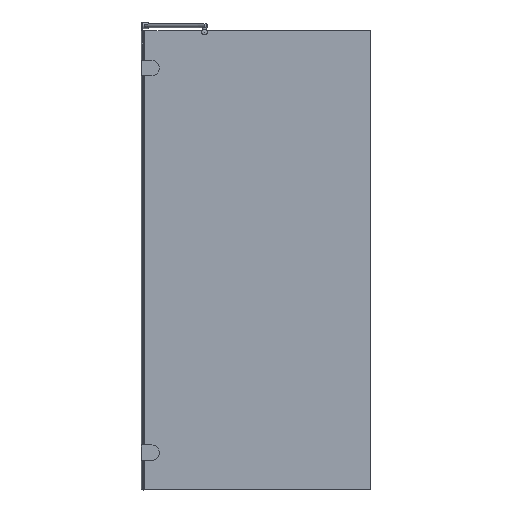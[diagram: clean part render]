
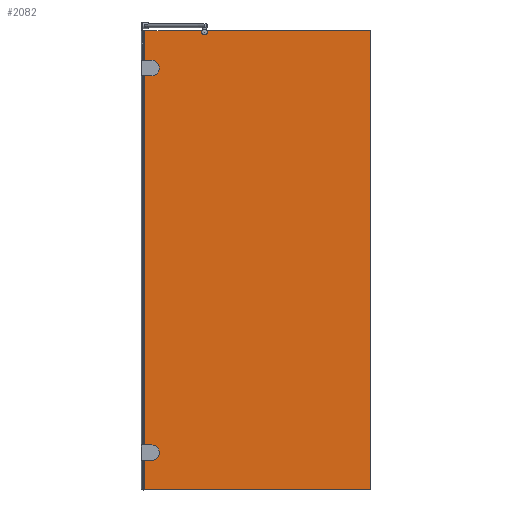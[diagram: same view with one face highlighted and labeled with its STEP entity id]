
A CAD part, front view. The second image highlights one B-rep face of the part: STEP entity #2082.
In plain terms, the highlighted planar face has unit normal (0, -1, 0).
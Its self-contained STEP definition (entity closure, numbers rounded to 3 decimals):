
#87=FACE_BOUND($,#356,.T.);
#88=FACE_BOUND($,#357,.T.);
#89=FACE_BOUND($,#358,.T.);
#356=EDGE_LOOP($,(#1706,#1707,#1708,#1709));
#357=EDGE_LOOP($,(#1710,#1711,#1712,#1713));
#358=EDGE_LOOP($,(#1714,#1715,#1716,#1717,#1718,#1719,#1720));
#407=LINE($,#2951,#566);
#412=LINE($,#2965,#571);
#415=LINE($,#2970,#574);
#457=LINE($,#3178,#616);
#462=LINE($,#3192,#621);
#465=LINE($,#3197,#624);
#491=LINE($,#3582,#650);
#493=LINE($,#3587,#652);
#523=LINE($,#3677,#682);
#526=LINE($,#3682,#685);
#527=LINE($,#3684,#686);
#566=VECTOR($,#2375,15.);
#571=VECTOR($,#2388,15.);
#574=VECTOR($,#2393,52.);
#616=VECTOR($,#2543,15.);
#621=VECTOR($,#2556,15.);
#624=VECTOR($,#2561,52.);
#650=VECTOR($,#2697,571.566);
#652=VECTOR($,#2701,1600.);
#682=VECTOR($,#2793,788.);
#685=VECTOR($,#2800,198.474);
#686=VECTOR($,#2801,1599.9);
#708=CIRCLE($,#2126,26.);
#737=CIRCLE($,#2185,26.);
#754=CIRCLE($,#2219,10.);
#781=CIRCLE($,#2278,0.1);
#822=VERTEX_POINT($,#2949);
#823=VERTEX_POINT($,#2950);
#826=VERTEX_POINT($,#2958);
#828=VERTEX_POINT($,#2964);
#880=VERTEX_POINT($,#3176);
#881=VERTEX_POINT($,#3177);
#884=VERTEX_POINT($,#3185);
#886=VERTEX_POINT($,#3191);
#910=VERTEX_POINT($,#3362);
#911=VERTEX_POINT($,#3363);
#935=VERTEX_POINT($,#3581);
#936=VERTEX_POINT($,#3585);
#937=VERTEX_POINT($,#3586);
#966=VERTEX_POINT($,#3675);
#967=VERTEX_POINT($,#3683);
#1021=EDGE_CURVE($,#822,#823,#407,.T.);
#1025=EDGE_CURVE($,#823,#826,#708,.T.);
#1028=EDGE_CURVE($,#826,#828,#412,.T.);
#1031=EDGE_CURVE($,#828,#822,#415,.T.);
#1102=EDGE_CURVE($,#880,#881,#457,.T.);
#1106=EDGE_CURVE($,#881,#884,#737,.T.);
#1109=EDGE_CURVE($,#884,#886,#462,.T.);
#1112=EDGE_CURVE($,#886,#880,#465,.T.);
#1146=EDGE_CURVE($,#910,#911,#754,.T.);
#1178=EDGE_CURVE($,#935,#910,#491,.T.);
#1180=EDGE_CURVE($,#936,#937,#493,.T.);
#1226=EDGE_CURVE($,#966,#937,#523,.T.);
#1229=EDGE_CURVE($,#911,#936,#526,.T.);
#1230=EDGE_CURVE($,#967,#966,#527,.T.);
#1231=EDGE_CURVE($,#935,#967,#781,.T.);
#1706=ORIENTED_EDGE($,*,*,#1021,.T.);
#1707=ORIENTED_EDGE($,*,*,#1025,.T.);
#1708=ORIENTED_EDGE($,*,*,#1028,.T.);
#1709=ORIENTED_EDGE($,*,*,#1031,.T.);
#1710=ORIENTED_EDGE($,*,*,#1102,.T.);
#1711=ORIENTED_EDGE($,*,*,#1106,.T.);
#1712=ORIENTED_EDGE($,*,*,#1109,.T.);
#1713=ORIENTED_EDGE($,*,*,#1112,.T.);
#1714=ORIENTED_EDGE($,*,*,#1146,.T.);
#1715=ORIENTED_EDGE($,*,*,#1229,.T.);
#1716=ORIENTED_EDGE($,*,*,#1180,.T.);
#1717=ORIENTED_EDGE($,*,*,#1226,.F.);
#1718=ORIENTED_EDGE($,*,*,#1230,.F.);
#1719=ORIENTED_EDGE($,*,*,#1231,.F.);
#1720=ORIENTED_EDGE($,*,*,#1178,.T.);
#1862=PLANE($,#2277);
#2082=ADVANCED_FACE($,(#87,#88,#89),#1862,.T.);
#2126=AXIS2_PLACEMENT_3D($,#2959,#2381,#2382);
#2185=AXIS2_PLACEMENT_3D($,#3186,#2549,#2550);
#2219=AXIS2_PLACEMENT_3D($,#3364,#2634,#2635);
#2277=AXIS2_PLACEMENT_3D($,#3681,#2798,#2799);
#2278=AXIS2_PLACEMENT_3D($,#3685,#2802,#2803);
#2375=DIRECTION($,(1.,0.,0.));
#2381=DIRECTION('center_axis',(0.,1.,0.));
#2382=DIRECTION('ref_axis',(0.,0.,
1.));
#2388=DIRECTION($,(-1.,0.,0.));
#2393=DIRECTION($,(0.,0.,1.));
#2543=DIRECTION($,(1.,0.,0.));
#2549=DIRECTION('center_axis',(0.,1.,0.));
#2550=DIRECTION('ref_axis',(0.,0.,
1.));
#2556=DIRECTION($,(-1.,0.,0.));
#2561=DIRECTION($,(0.,0.,1.));
#2634=DIRECTION('center_axis',(0.,1.,0.));
#2635=DIRECTION('ref_axis',(-0.597,0.,0.802));
#2697=DIRECTION($,(-1.,0.,0.));
#2701=DIRECTION($,(0.,0.,-1.));
#2793=DIRECTION($,(-1.,0.,0.));
#2798=DIRECTION('center_axis',(0.,-1.,0.));
#2799=DIRECTION('ref_axis',(-1.,0.,0.));
#2800=DIRECTION($,(-1.,0.,0.));
#2801=DIRECTION($,(0.,0.,-1.));
#2802=DIRECTION('center_axis',(0.,1.,0.));
#2803=DIRECTION('ref_axis',(0.707,0.,0.707));
#2949=CARTESIAN_POINT('',(-127.267,-34.044,181.944));
#2950=CARTESIAN_POINT('',(-112.267,-34.044,181.944));
#2951=CARTESIAN_POINT($,(269.733,-34.044,181.944));
#2958=CARTESIAN_POINT('',(-112.267,-34.044,129.944));
#2959=CARTESIAN_POINT('Origin',(-112.267,-34.044,155.944));
#2964=CARTESIAN_POINT('',(-127.267,-34.044,129.944));
#2965=CARTESIAN_POINT($,(262.233,-34.044,129.944));
#2970=CARTESIAN_POINT($,(-127.267,-34.044,903.944));
#3176=CARTESIAN_POINT('',(-127.267,-34.044,1521.944));
#3177=CARTESIAN_POINT('',(-112.267,-34.044,1521.944));
#3178=CARTESIAN_POINT($,(269.733,-34.044,1521.944));
#3185=CARTESIAN_POINT('',(-112.267,-34.044,1469.944));
#3186=CARTESIAN_POINT('Origin',(-112.267,-34.044,1495.944));
#3191=CARTESIAN_POINT('',(-127.267,-34.044,1469.944));
#3192=CARTESIAN_POINT($,(262.233,-34.044,1469.944));
#3197=CARTESIAN_POINT($,(-127.267,-34.044,1573.944));
#3362=CARTESIAN_POINT('',(80.068,-34.044,1625.944));
#3363=CARTESIAN_POINT('',(62.207,-34.044,1625.944));
#3364=CARTESIAN_POINT('Origin',(71.137,-34.044,1621.444));
#3581=CARTESIAN_POINT('',(651.633,-34.044,1625.944));
#3582=CARTESIAN_POINT($,(651.733,-34.044,1625.944));
#3585=CARTESIAN_POINT('',(-136.267,-34.044,1625.944));
#3586=CARTESIAN_POINT('',(-136.267,-34.044,25.944));
#3587=CARTESIAN_POINT($,(-136.267,-34.044,825.944));
#3675=CARTESIAN_POINT('',(651.733,-34.044,25.944));
#3677=CARTESIAN_POINT($,(651.733,-34.044,25.944));
#3681=CARTESIAN_POINT('Origin',(651.733,-34.044,1625.944));
#3682=CARTESIAN_POINT($,(651.733,-34.044,1625.944));
#3683=CARTESIAN_POINT('',(651.733,-34.044,1625.844));
#3684=CARTESIAN_POINT($,(651.733,-34.044,1625.944));
#3685=CARTESIAN_POINT('Origin',(651.633,-34.044,1625.844));
